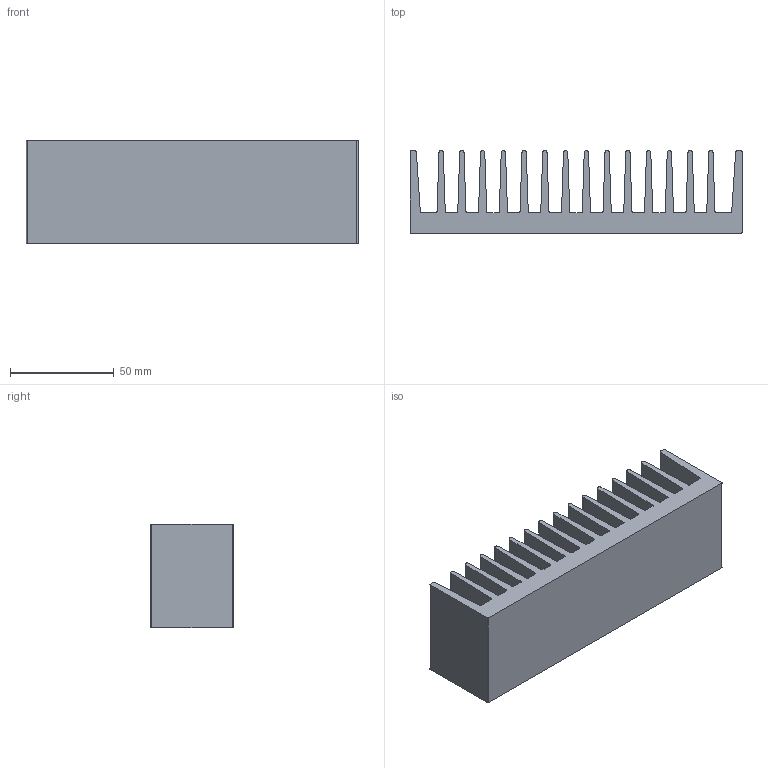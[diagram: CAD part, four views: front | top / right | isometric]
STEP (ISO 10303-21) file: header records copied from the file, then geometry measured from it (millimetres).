
FILE_DESCRIPTION (( 'STEP AP203' ), '1' );
FILE_NAME ('PR 169-50.step', '2002-10-21T08:59:35', ( 'Wolfgang Müller' ), ( 'DPS' ), 'SwSTEP 2.0', 'SolidWorks 2002264', '' );
FILE_SCHEMA (( 'CONFIG_CONTROL_DESIGN' ));
Length unit declared in the file: millimetre
Products named in the file (1): PR 169-50
Bounding box: 160 x 40 x 50 mm (x, y, z)
Volume: 154747.9 mm3; surface area: 68669.5 mm2
Topology: 1 solids, 1 shells, 102 faces, 300 edges, 200 vertices
Faces by surface type: plane 52, cylinder 50
Entity records: 3501 total; most frequent: DIRECTION 606, CARTESIAN_POINT 603, ORIENTED_EDGE 600, EDGE_CURVE 300, AXIS2_PLACEMENT_3D 203, VERTEX_POINT 200, VECTOR 200, LINE 200
